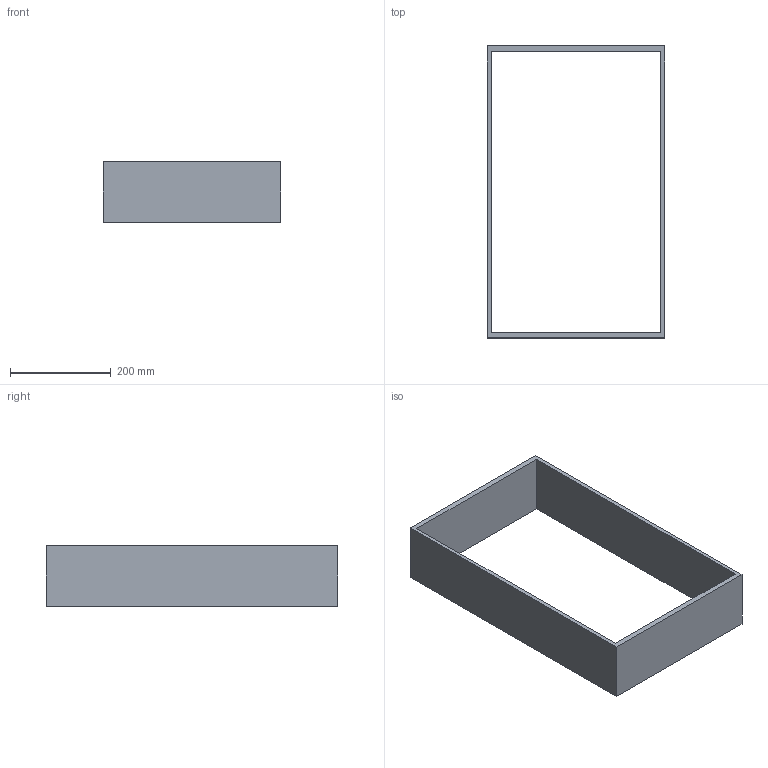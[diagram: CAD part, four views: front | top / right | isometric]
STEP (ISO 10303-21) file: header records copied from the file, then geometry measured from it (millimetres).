
FILE_DESCRIPTION (( 'STEP AP214' ), '1' );
FILE_NAME ('Vario Multi H120 NL600_B450_19 mm_Alu-Alu.step', '2010-10-08T09:48:15', ( 'grass' ), ( '' ), 'SwSTEP 2.0', 'SolidWorks 2010', '' );
FILE_SCHEMA (( 'AUTOMOTIVE_DESIGN' ));
Length unit declared in the file: millimetre
Products named in the file (1): Vario Multi H120 NL600_B450_19 mm_Alu-Alu
Bounding box: 352 x 579 x 120 mm (x, y, z)
Volume: 1998720 mm3; surface area: 471072 mm2
Topology: 1 solids, 1 shells, 10 faces, 24 edges, 16 vertices
Faces by surface type: plane 10
Entity records: 326 total; most frequent: CARTESIAN_POINT 51, ORIENTED_EDGE 48, DIRECTION 46, VECTOR 24, LINE 24, EDGE_CURVE 24, VERTEX_POINT 16, EDGE_LOOP 12
